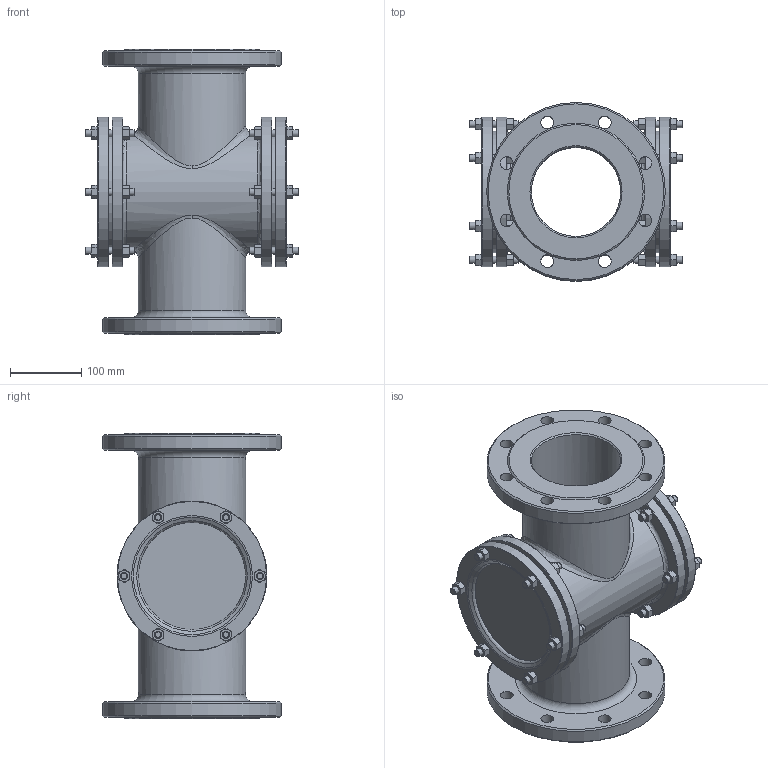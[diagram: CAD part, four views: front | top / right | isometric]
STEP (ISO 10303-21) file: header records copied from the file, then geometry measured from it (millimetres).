
FILE_DESCRIPTION(('STEP AP242'), '1');
FILE_NAME('SG2-35S-F Ñòåêëî ñìîòðîâîå DN.ru Äó125 Ðó16', '', ('UNSPECIFIED'), ('UNSPECIFIED'), 'C3D Converter', 'C3D Toolkit', '');
FILE_SCHEMA(('AP242_MANAGED_MODEL_BASED_3D_ENGINEERING_MIM_LF { 1 0 10303 442 1 1 4 }'));
Length unit declared in the file: millimetre
Products named in the file (1): SG2-35S-F
Bounding box: 299.5 x 250 x 400 mm (x, y, z)
Volume: 4873532.1 mm3; surface area: 771947.1 mm2
Topology: 1 solids, 1 shells, 729 faces, 1726 edges, 1047 vertices
Faces by surface type: cone 340, plane 267, cylinder 75, bspline 31, torus 16
Full cylindrical faces by diameter (mm): 10 x36, 18 x16, 125 x2, 150 x5, 165 x1, 170 x2, 210 x4, 250 x2
Entity records: 41788 total; most frequent: CARTESIAN_POINT 24870, ORIENTED_EDGE 3194, DIRECTION 2880, EDGE_CURVE 1597, AXIS2_PLACEMENT_3D 1314, VERTEX_POINT 1041, EDGE_LOOP 972, FACE_BOUND 832
